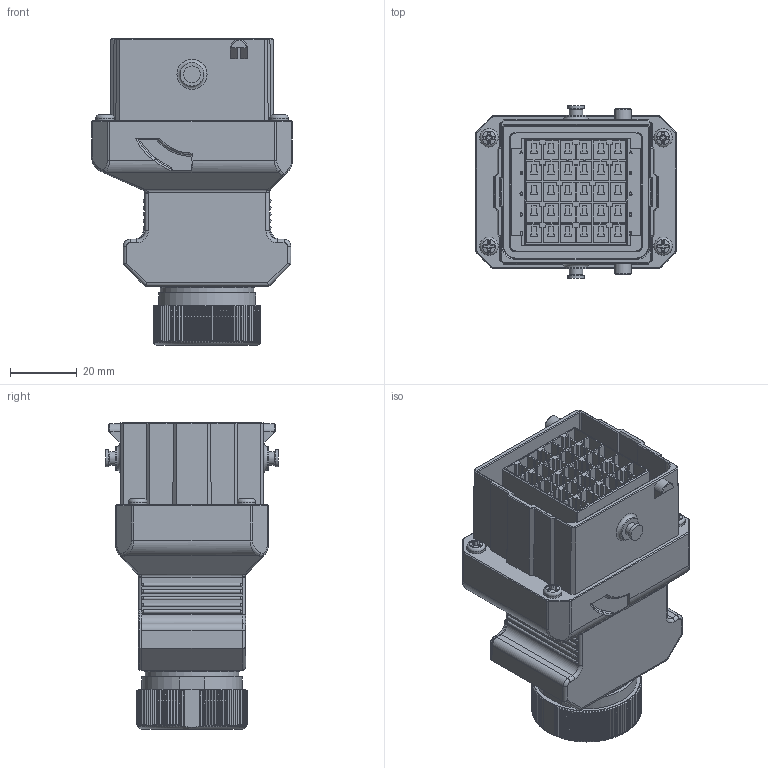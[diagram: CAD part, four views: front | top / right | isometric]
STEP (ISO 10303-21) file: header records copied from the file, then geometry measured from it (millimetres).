
FILE_DESCRIPTION (( 'STEP AP203' ), '1' );
FILE_NAME ('DK-3CR30ETC-S(R1).STEP', '2023-03-16T07:13:42', ( '' ), ( '' ), 'SwSTEP 2.0', 'SolidWorks 2018', '' );
FILE_SCHEMA (( 'CONFIG_CONTROL_DESIGN' ));
Products named in the file (1): DK-3CR30ETC-S(R1)
Bounding box: 60 x 51.6 x 91.7 mm (x, y, z)
Volume: 81855.7 mm3; surface area: 48199.8 mm2
Topology: 1 solids, 1 shells, 3651 faces, 10216 edges, 6667 vertices
Faces by surface type: plane 2487, cylinder 654, bspline 396, cone 43, sphere 37, torus 34
Full cylindrical faces by diameter (mm): 2.5 x2, 4 x2, 4.5 x2, 5 x4, 5.5 x4, 7 x2, 23 x2, 24.2 x1, 28 x1
Entity records: 131320 total; most frequent: CARTESIAN_POINT 42239, ORIENTED_EDGE 20240, DIRECTION 15554, EDGE_CURVE 10120, VECTOR 7334, LINE 7334, VERTEX_POINT 6653, AXIS2_PLACEMENT_3D 4110
